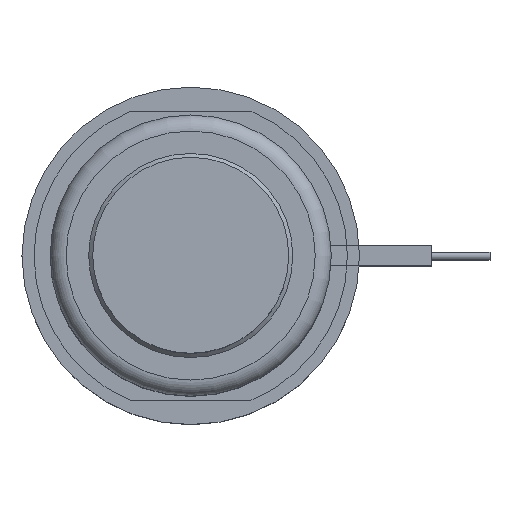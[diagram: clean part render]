
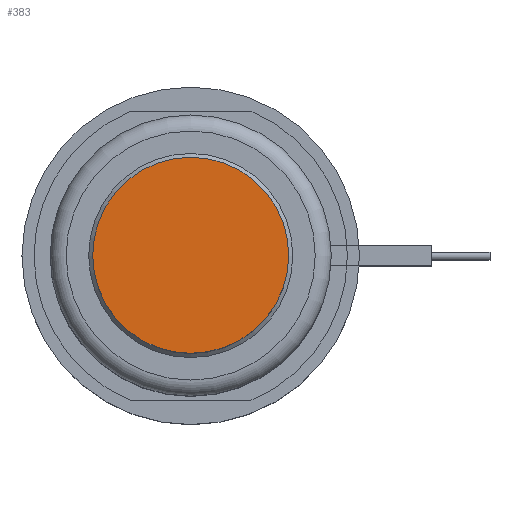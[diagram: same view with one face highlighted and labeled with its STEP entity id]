
A CAD part, top view. The second image highlights one B-rep face of the part: STEP entity #383.
In plain terms, the highlighted planar face has unit normal (0, 0, 1).
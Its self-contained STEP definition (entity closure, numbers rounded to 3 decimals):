
#288=CIRCLE('',#1385,12.2);
#383=ADVANCED_FACE('',(#500),#441,.F.);
#441=PLANE('',#1386);
#500=FACE_OUTER_BOUND('',#616,.T.);
#616=EDGE_LOOP('',(#864));
#864=ORIENTED_EDGE('',*,*,#1134,.F.);
#1004=VERTEX_POINT('',#2163);
#1134=EDGE_CURVE('',#1004,#1004,#288,.T.);
#1385=AXIS2_PLACEMENT_3D('',#2162,#1711,#1712);
#1386=AXIS2_PLACEMENT_3D('',#2164,#1713,#1714);
#1711=DIRECTION('',(0.,0.,-1.));
#1712=DIRECTION('',(-1.,0.,0.));
#1713=DIRECTION('',(0.,0.,-1.));
#1714=DIRECTION('',(-1.,0.,0.));
#2162=CARTESIAN_POINT('',(0.,0.,18.));
#2163=CARTESIAN_POINT('',(-12.2,0.,18.));
#2164=CARTESIAN_POINT('',(0.,0.,18.));
